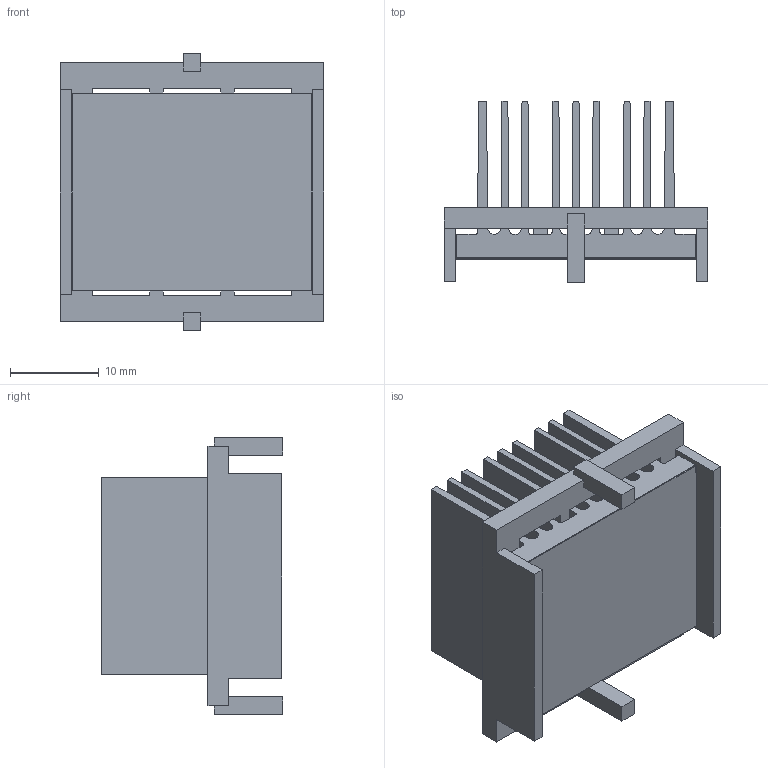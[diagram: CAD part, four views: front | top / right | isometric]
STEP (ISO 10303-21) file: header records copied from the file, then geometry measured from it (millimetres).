
FILE_DESCRIPTION (( 'STEP AP214' ), '1' );
FILE_NAME ('INH27001-18-2.6K32.STEP', '2023-02-16T16:10:21', ( '' ), ( '' ), 'SwSTEP 2.0', 'SolidWorks 2020', '' );
FILE_SCHEMA (( 'AUTOMOTIVE_DESIGN' ));
Length unit declared in the file: millimetre
Products named in the file (1): INH27001-18-2.6K32
Bounding box: 29.7 x 20.4 x 31.2 mm (x, y, z)
Volume: 5418.9 mm3; surface area: 10802.8 mm2
Topology: 3 solids, 3 shells, 118 faces, 336 edges, 224 vertices
Faces by surface type: plane 100, cylinder 18
Entity records: 5150 total; most frequent: CARTESIAN_POINT 679, ORIENTED_EDGE 672, DIRECTION 610, EDGE_CURVE 336, VECTOR 300, LINE 300, VERTEX_POINT 224, AXIS2_PLACEMENT_3D 155
